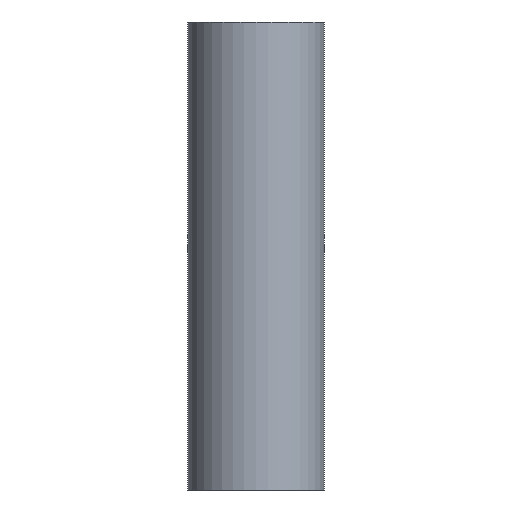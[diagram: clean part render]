
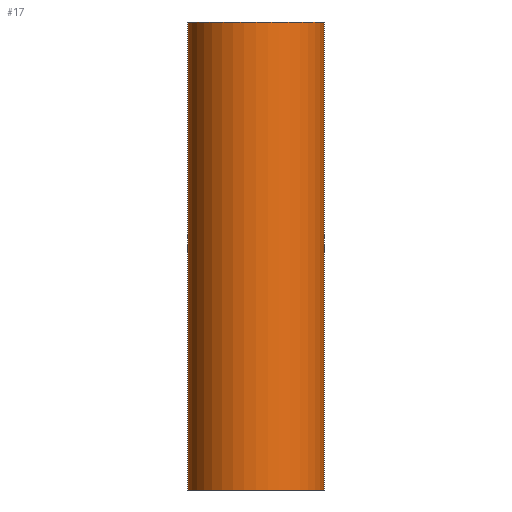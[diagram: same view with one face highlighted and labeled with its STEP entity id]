
A CAD part, front view. The second image highlights one B-rep face of the part: STEP entity #17.
In plain terms, the highlighted cylindrical face has radius 175 mm (diameter 350 mm), a full revolution.
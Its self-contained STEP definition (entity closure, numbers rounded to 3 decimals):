
#17 = ADVANCED_FACE('',(#18),#32,.T.);
#18 = FACE_BOUND('',#19,.F.);
#19 = EDGE_LOOP('',(#20,#50,#77,#78));
#20 = ORIENTED_EDGE('',*,*,#21,.T.);
#21 = EDGE_CURVE('',#22,#24,#26,.T.);
#22 = VERTEX_POINT('',#23);
#23 = CARTESIAN_POINT('',(175.,0.,0.));
#24 = VERTEX_POINT('',#25);
#25 = CARTESIAN_POINT('',(175.,0.,1200.));
#26 = SEAM_CURVE('',#27,(#31,#43),.PCURVE_S1.);
#27 = LINE('',#28,#29);
#28 = CARTESIAN_POINT('',(175.,0.,0.));
#29 = VECTOR('',#30,1.);
#30 = DIRECTION('',(0.,0.,1.));
#31 = PCURVE('',#32,#37);
#32 = CYLINDRICAL_SURFACE('',#33,175.);
#33 = AXIS2_PLACEMENT_3D('',#34,#35,#36);
#34 = CARTESIAN_POINT('',(0.,0.,0.));
#35 = DIRECTION('',(-0.,-0.,-1.));
#36 = DIRECTION('',(1.,0.,0.));
#37 = DEFINITIONAL_REPRESENTATION('',(#38),#42);
#38 = LINE('',#39,#40);
#39 = CARTESIAN_POINT('',(-0.,0.));
#40 = VECTOR('',#41,1.);
#41 = DIRECTION('',(-0.,-1.));
#42 = ( GEOMETRIC_REPRESENTATION_CONTEXT(2) 
PARAMETRIC_REPRESENTATION_CONTEXT() REPRESENTATION_CONTEXT('2D SPACE',''
  ) );
#43 = PCURVE('',#32,#44);
#44 = DEFINITIONAL_REPRESENTATION('',(#45),#49);
#45 = LINE('',#46,#47);
#46 = CARTESIAN_POINT('',(-6.283,0.));
#47 = VECTOR('',#48,1.);
#48 = DIRECTION('',(-0.,-1.));
#49 = ( GEOMETRIC_REPRESENTATION_CONTEXT(2) 
PARAMETRIC_REPRESENTATION_CONTEXT() REPRESENTATION_CONTEXT('2D SPACE',''
  ) );
#50 = ORIENTED_EDGE('',*,*,#51,.T.);
#51 = EDGE_CURVE('',#24,#24,#52,.T.);
#52 = SURFACE_CURVE('',#53,(#58,#65),.PCURVE_S1.);
#53 = CIRCLE('',#54,175.);
#54 = AXIS2_PLACEMENT_3D('',#55,#56,#57);
#55 = CARTESIAN_POINT('',(0.,0.,1200.));
#56 = DIRECTION('',(0.,0.,1.));
#57 = DIRECTION('',(1.,0.,0.));
#58 = PCURVE('',#32,#59);
#59 = DEFINITIONAL_REPRESENTATION('',(#60),#64);
#60 = LINE('',#61,#62);
#61 = CARTESIAN_POINT('',(-0.,-1200.));
#62 = VECTOR('',#63,1.);
#63 = DIRECTION('',(-1.,0.));
#64 = ( GEOMETRIC_REPRESENTATION_CONTEXT(2) 
PARAMETRIC_REPRESENTATION_CONTEXT() REPRESENTATION_CONTEXT('2D SPACE',''
  ) );
#65 = PCURVE('',#66,#71);
#66 = PLANE('',#67);
#67 = AXIS2_PLACEMENT_3D('',#68,#69,#70);
#68 = CARTESIAN_POINT('',(0.,0.,1200.)
  );
#69 = DIRECTION('',(0.,0.,1.));
#70 = DIRECTION('',(1.,0.,-0.));
#71 = DEFINITIONAL_REPRESENTATION('',(#72),#76);
#72 = CIRCLE('',#73,175.);
#73 = AXIS2_PLACEMENT_2D('',#74,#75);
#74 = CARTESIAN_POINT('',(0.,0.));
#75 = DIRECTION('',(1.,0.));
#76 = ( GEOMETRIC_REPRESENTATION_CONTEXT(2) 
PARAMETRIC_REPRESENTATION_CONTEXT() REPRESENTATION_CONTEXT('2D SPACE',''
  ) );
#77 = ORIENTED_EDGE('',*,*,#21,.F.);
#78 = ORIENTED_EDGE('',*,*,#79,.F.);
#79 = EDGE_CURVE('',#22,#22,#80,.T.);
#80 = SURFACE_CURVE('',#81,(#86,#93),.PCURVE_S1.);
#81 = CIRCLE('',#82,175.);
#82 = AXIS2_PLACEMENT_3D('',#83,#84,#85);
#83 = CARTESIAN_POINT('',(0.,0.,0.));
#84 = DIRECTION('',(0.,0.,1.));
#85 = DIRECTION('',(1.,0.,0.));
#86 = PCURVE('',#32,#87);
#87 = DEFINITIONAL_REPRESENTATION('',(#88),#92);
#88 = LINE('',#89,#90);
#89 = CARTESIAN_POINT('',(-0.,0.));
#90 = VECTOR('',#91,1.);
#91 = DIRECTION('',(-1.,0.));
#92 = ( GEOMETRIC_REPRESENTATION_CONTEXT(2) 
PARAMETRIC_REPRESENTATION_CONTEXT() REPRESENTATION_CONTEXT('2D SPACE',''
  ) );
#93 = PCURVE('',#94,#99);
#94 = PLANE('',#95);
#95 = AXIS2_PLACEMENT_3D('',#96,#97,#98);
#96 = CARTESIAN_POINT('',(0.,0.,0.));
#97 = DIRECTION('',(0.,0.,1.));
#98 = DIRECTION('',(1.,0.,-0.));
#99 = DEFINITIONAL_REPRESENTATION('',(#100),#104);
#100 = CIRCLE('',#101,175.);
#101 = AXIS2_PLACEMENT_2D('',#102,#103);
#102 = CARTESIAN_POINT('',(0.,0.));
#103 = DIRECTION('',(1.,0.));
#104 = ( GEOMETRIC_REPRESENTATION_CONTEXT(2) 
PARAMETRIC_REPRESENTATION_CONTEXT() REPRESENTATION_CONTEXT('2D SPACE',''
  ) );
